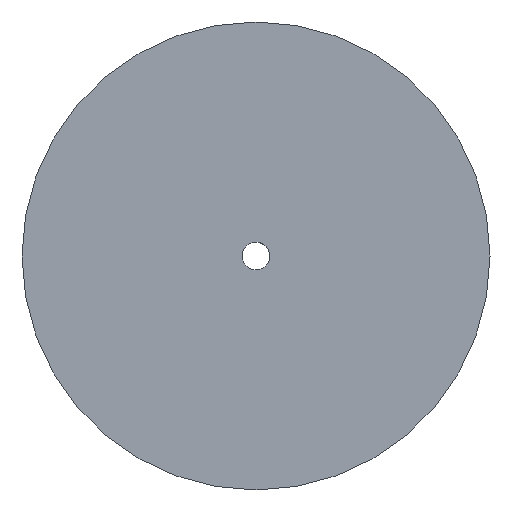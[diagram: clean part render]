
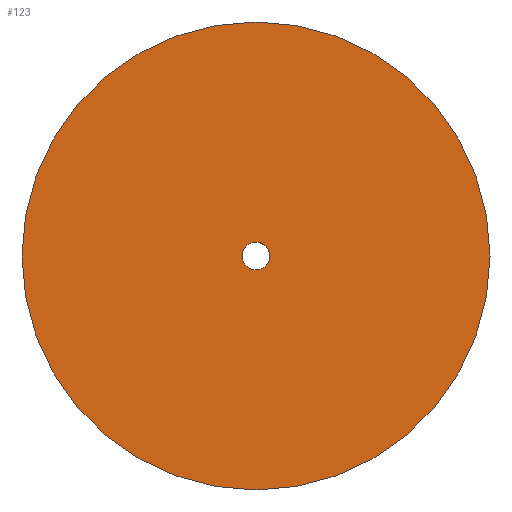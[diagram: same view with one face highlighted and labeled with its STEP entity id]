
A CAD part, top view. The second image highlights one B-rep face of the part: STEP entity #123.
In plain terms, the highlighted planar face has unit normal (0, 0, 1).
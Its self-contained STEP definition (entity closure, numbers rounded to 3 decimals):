
#62=CARTESIAN_POINT('Vertex',(-2.852,1.558,0.)) ;
#76=CARTESIAN_POINT('Vertex',(2.852,-1.558,0.)) ;
#79=CARTESIAN_POINT('Axis2P3D Location',(0.,0.,0.)) ;
#91=CARTESIAN_POINT('Axis2P3D Location',(0.,0.,0.)) ;
#96=CARTESIAN_POINT('Axis2P3D Location',(0.,0.,0.)) ;
#100=CARTESIAN_POINT('Vertex',(55.,0.,0.)) ;
#102=CARTESIAN_POINT('Vertex',(-55.,0.,0.)) ;
#105=CARTESIAN_POINT('Axis2P3D Location',(0.,0.,0.)) ;
#114=CARTESIAN_POINT('Axis2P3D Location',(0.,0.,0.)) ;
#80=DIRECTION('Axis2P3D Direction',(0.,-0.,-1.)) ;
#92=DIRECTION('Axis2P3D Direction',(0.,0.,1.)) ;
#93=DIRECTION('Axis2P3D XDirection',(1.,0.,0.)) ;
#97=DIRECTION('Axis2P3D Direction',(0.,0.,1.)) ;
#106=DIRECTION('Axis2P3D Direction',(0.,0.,1.)) ;
#115=DIRECTION('Axis2P3D Direction',(0.,0.,1.)) ;
#81=AXIS2_PLACEMENT_3D('Circle Axis2P3D',#79,#80,$) ;
#94=AXIS2_PLACEMENT_3D('Plane Axis2P3D',#91,#92,#93) ;
#98=AXIS2_PLACEMENT_3D('Circle Axis2P3D',#96,#97,$) ;
#107=AXIS2_PLACEMENT_3D('Circle Axis2P3D',#105,#106,$) ;
#116=AXIS2_PLACEMENT_3D('Circle Axis2P3D',#114,#115,$) ;
#111=ORIENTED_EDGE('',*,*,#104,.F.) ;
#112=ORIENTED_EDGE('',*,*,#109,.F.) ;
#120=ORIENTED_EDGE('',*,*,#118,.F.) ;
#121=ORIENTED_EDGE('',*,*,#83,.F.) ;
#122=FACE_BOUND('',#119,.T.) ;
#123=ADVANCED_FACE('PartBody',(#113,#122),#95,.T.) ;
#82=CIRCLE('generated circle',#81,3.25) ;
#99=CIRCLE('generated circle',#98,55.) ;
#108=CIRCLE('generated circle',#107,55.) ;
#117=CIRCLE('generated circle',#116,3.25) ;
#83=EDGE_CURVE('',#77,#63,#82,.F.) ;
#104=EDGE_CURVE('',#101,#103,#99,.F.) ;
#109=EDGE_CURVE('',#103,#101,#108,.F.) ;
#118=EDGE_CURVE('',#63,#77,#117,.T.) ;
#110=EDGE_LOOP('',(#111,#112)) ;
#119=EDGE_LOOP('',(#120,#121)) ;
#113=FACE_OUTER_BOUND('',#110,.T.) ;
#95=PLANE('',#94) ;
#63=VERTEX_POINT('',#62) ;
#77=VERTEX_POINT('',#76) ;
#101=VERTEX_POINT('',#100) ;
#103=VERTEX_POINT('',#102) ;
